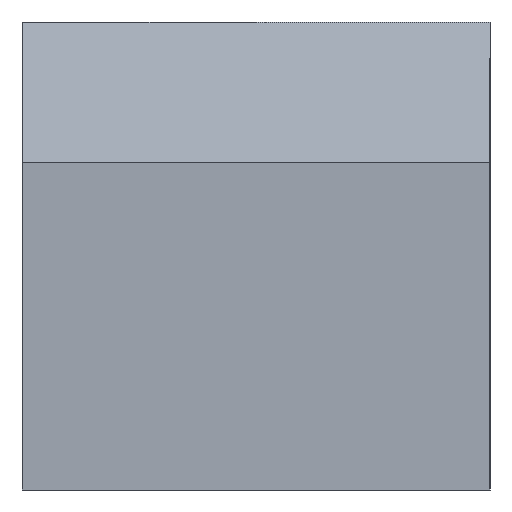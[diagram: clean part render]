
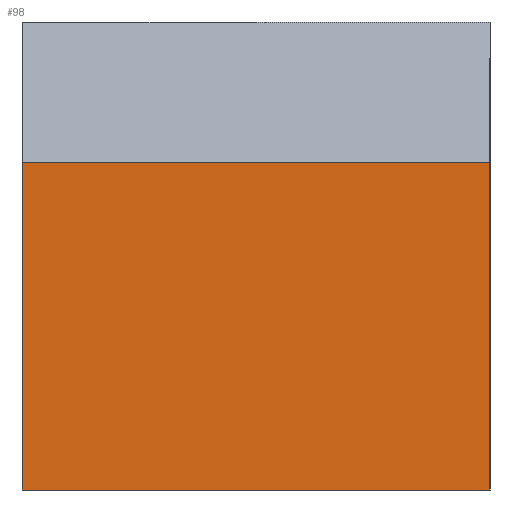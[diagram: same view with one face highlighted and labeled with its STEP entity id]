
A CAD part, left-side view. The second image highlights one B-rep face of the part: STEP entity #98.
In plain terms, the highlighted planar face has unit normal (-1, 0, 0).
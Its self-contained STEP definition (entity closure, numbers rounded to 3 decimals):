
#98=ADVANCED_FACE('',(#473),#475,.T.);
#473=FACE_BOUND('',#474,.T.);
#474=EDGE_LOOP('',(#800,#801,#802,#803));
#475=PLANE('',#476);
#476=AXIS2_PLACEMENT_3D('',#477,#478,#479);
#477=CARTESIAN_POINT('',(-26.,-20.,-20.));
#478=DIRECTION('',(-1.,0.,0.));
#479=DIRECTION('',(0.,0.,1.));
#800=ORIENTED_EDGE('',*,*,#903,.T.);
#801=ORIENTED_EDGE('',*,*,#904,.F.);
#802=ORIENTED_EDGE('',*,*,#884,.F.);
#803=ORIENTED_EDGE('',*,*,#898,.T.);
#884=EDGE_CURVE('',#936,#938,#939,.T.);
#898=EDGE_CURVE('',#936,#963,#966,.T.);
#903=EDGE_CURVE('',#963,#974,#975,.T.);
#904=EDGE_CURVE('',#938,#974,#976,.T.);
#936=VERTEX_POINT('',#1034);
#938=VERTEX_POINT('',#1038);
#939=LINE('',#1039,#1040);
#963=VERTEX_POINT('',#1099);
#966=LINE('',#1104,#1105);
#974=VERTEX_POINT('',#1123);
#975=LINE('',#1124,#1125);
#976=LINE('',#1127,#1128);
#1034=CARTESIAN_POINT('',(-26.,-20.,-20.));
#1038=CARTESIAN_POINT('',(-26.,20.,-20.));
#1039=CARTESIAN_POINT('',(-26.,-20.,-20.));
#1040=VECTOR('',#1041,1.);
#1041=DIRECTION('',(0.,1.,0.));
#1099=CARTESIAN_POINT('',(-26.,-20.,8.));
#1104=CARTESIAN_POINT('',(-26.,-20.,-20.));
#1105=VECTOR('',#1106,1.);
#1106=DIRECTION('',(0.,0.,1.));
#1123=CARTESIAN_POINT('',(-26.,20.,8.));
#1124=CARTESIAN_POINT('',(-26.,-20.,8.));
#1125=VECTOR('',#1126,1.);
#1126=DIRECTION('',(0.,1.,0.));
#1127=CARTESIAN_POINT('',(-26.,20.,-20.));
#1128=VECTOR('',#1129,1.);
#1129=DIRECTION('',(0.,0.,1.));
